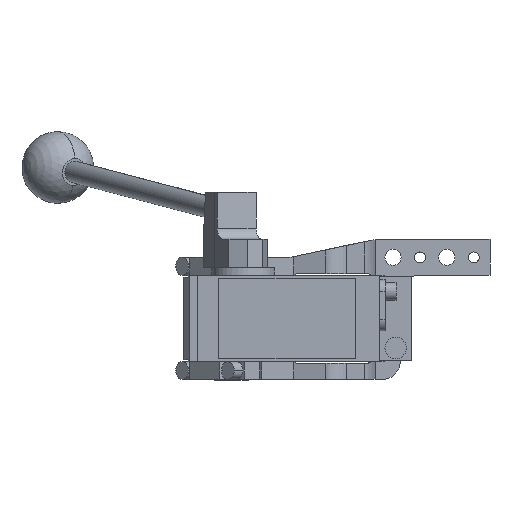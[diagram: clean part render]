
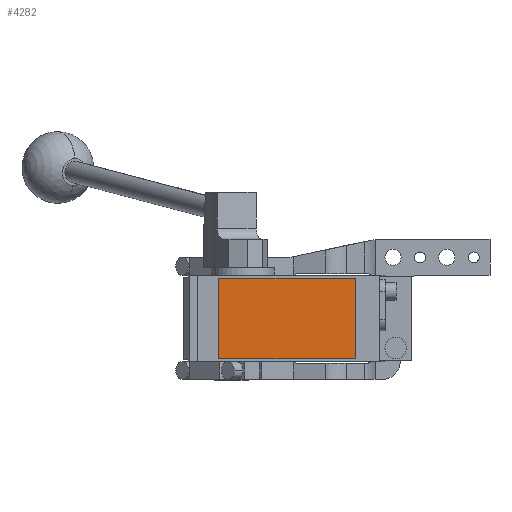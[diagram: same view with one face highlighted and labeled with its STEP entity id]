
A CAD part, front view. The second image highlights one B-rep face of the part: STEP entity #4282.
In plain terms, the highlighted planar face has unit normal (0, -1, 0).
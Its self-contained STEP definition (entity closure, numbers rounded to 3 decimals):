
#601 = CARTESIAN_POINT ( 'NONE',  ( 69., -280.5, 22.5 ) ) ;
#663 = DIRECTION ( 'NONE',  ( 0., -1., 0. ) ) ;
#677 = DIRECTION ( 'NONE',  ( 0., 0., 1. ) ) ;
#1018 = EDGE_LOOP ( 'NONE', ( #10446, #8439, #13050, #14745 ) ) ;
#1059 = EDGE_CURVE ( 'NONE', #8300, #1421, #8836, .T. ) ;
#1421 = VERTEX_POINT ( 'NONE', #2321 ) ;
#2158 = DIRECTION ( 'NONE',  ( -1., 0., 0. ) ) ;
#2321 = CARTESIAN_POINT ( 'NONE',  ( 69., -280.5, 22.5 ) ) ;
#2743 = VECTOR ( 'NONE', #2158, 1000. ) ;
#2839 = CARTESIAN_POINT ( 'NONE',  ( -7., -280.5, -22.5 ) ) ;
#3943 = DIRECTION ( 'NONE',  ( 1., 0., 0. ) ) ;
#4170 = PLANE ( 'NONE',  #8172 ) ;
#4282 = ADVANCED_FACE ( 'NONE', ( #5150 ), #4170, .T. ) ;
#5150 = FACE_OUTER_BOUND ( 'NONE', #1018, .T. ) ;
#5994 = EDGE_CURVE ( 'NONE', #8753, #12287, #8745, .T. ) ;
#6311 = CARTESIAN_POINT ( 'NONE',  ( -7., -280.5, -22.5 ) ) ;
#6481 = VECTOR ( 'NONE', #3943, 1000. ) ;
#8172 = AXIS2_PLACEMENT_3D ( 'NONE', #9791, #663, #9877 ) ;
#8300 = VERTEX_POINT ( 'NONE', #14617 ) ;
#8439 = ORIENTED_EDGE ( 'NONE', *, *, #10086, .T. ) ;
#8745 = LINE ( 'NONE', #10020, #13834 ) ;
#8753 = VERTEX_POINT ( 'NONE', #12504 ) ;
#8836 = LINE ( 'NONE', #601, #9063 ) ;
#9063 = VECTOR ( 'NONE', #677, 1000. ) ;
#9791 = CARTESIAN_POINT ( 'NONE',  ( 0., -280.5, 0. ) ) ;
#9877 = DIRECTION ( 'NONE',  ( 0., 0., -1. ) ) ;
#10020 = CARTESIAN_POINT ( 'NONE',  ( -7., -280.5, 22.5 ) ) ;
#10086 = EDGE_CURVE ( 'NONE', #12287, #8300, #14255, .T. ) ;
#10446 = ORIENTED_EDGE ( 'NONE', *, *, #5994, .T. ) ;
#12287 = VERTEX_POINT ( 'NONE', #2839 ) ;
#12494 = LINE ( 'NONE', #13608, #2743 ) ;
#12504 = CARTESIAN_POINT ( 'NONE',  ( -7., -280.5, 22.5 ) ) ;
#12526 = DIRECTION ( 'NONE',  ( 0., 0., -1. ) ) ;
#13050 = ORIENTED_EDGE ( 'NONE', *, *, #1059, .T. ) ;
#13301 = EDGE_CURVE ( 'NONE', #1421, #8753, #12494, .T. ) ;
#13608 = CARTESIAN_POINT ( 'NONE',  ( -7., -280.5, 22.5 ) ) ;
#13834 = VECTOR ( 'NONE', #12526, 1000. ) ;
#14255 = LINE ( 'NONE', #6311, #6481 ) ;
#14617 = CARTESIAN_POINT ( 'NONE',  ( 69., -280.5, -22.5 ) ) ;
#14745 = ORIENTED_EDGE ( 'NONE', *, *, #13301, .T. ) ;
